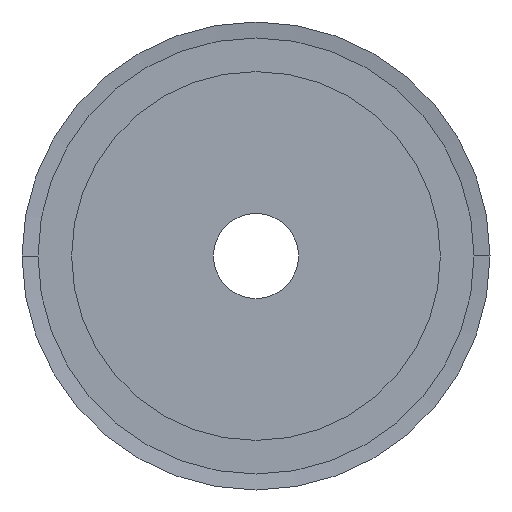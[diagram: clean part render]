
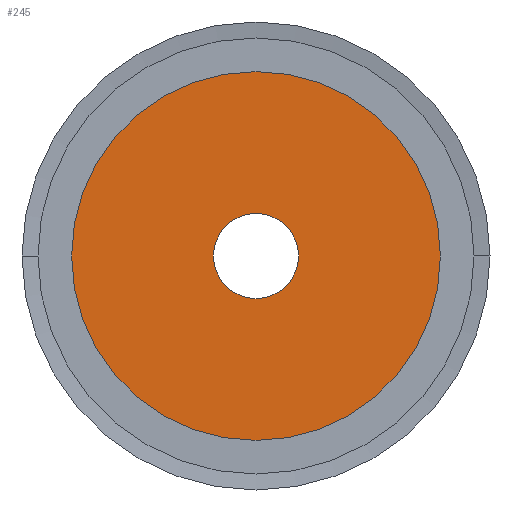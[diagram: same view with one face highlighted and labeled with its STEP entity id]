
A CAD part, left-side view. The second image highlights one B-rep face of the part: STEP entity #245.
In plain terms, the highlighted planar face has unit normal (-1, 0, 0).
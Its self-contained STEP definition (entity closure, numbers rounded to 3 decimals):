
#245 = ADVANCED_FACE( '', ( #593, #594 ), #595, .T. );
#593 = FACE_BOUND( '', #942, .T. );
#594 = FACE_OUTER_BOUND( '', #943, .T. );
#595 = PLANE( '', #944 );
#942 = EDGE_LOOP( '', ( #2419, #2420 ) );
#943 = EDGE_LOOP( '', ( #2421, #2422 ) );
#944 = AXIS2_PLACEMENT_3D( '', #2423, #2424, #2425 );
#2419 = ORIENTED_EDGE( '', *, *, #2465, .T. );
#2420 = ORIENTED_EDGE( '', *, *, #2461, .T. );
#2421 = ORIENTED_EDGE( '', *, *, #2429, .T. );
#2422 = ORIENTED_EDGE( '', *, *, #2909, .T. );
#2423 = CARTESIAN_POINT( '', ( 0., 13., 0. ) );
#2424 = DIRECTION( '', ( -1., 0., 0. ) );
#2425 = DIRECTION( '', ( 0., 1., 0. ) );
#2429 = EDGE_CURVE( '', #2911, #2915, #2917, .T. );
#2461 = EDGE_CURVE( '', #2975, #2972, #2976, .T. );
#2465 = EDGE_CURVE( '', #2972, #2975, #2981, .T. );
#2909 = EDGE_CURVE( '', #2915, #2911, #3713, .T. );
#2911 = VERTEX_POINT( '', #3715 );
#2915 = VERTEX_POINT( '', #3720 );
#2917 = CIRCLE( '', #3723, 26. );
#2972 = VERTEX_POINT( '', #3794 );
#2975 = VERTEX_POINT( '', #3798 );
#2976 = CIRCLE( '', #3799, 6. );
#2981 = CIRCLE( '', #3805, 6. );
#3713 = CIRCLE( '', #4777, 26. );
#3715 = CARTESIAN_POINT( '', ( 0., 26., 0. ) );
#3720 = CARTESIAN_POINT( '', ( 0., -26., 0. ) );
#3723 = AXIS2_PLACEMENT_3D( '', #4783, #4784, #4785 );
#3794 = CARTESIAN_POINT( '', ( 0., 6., 0. ) );
#3798 = CARTESIAN_POINT( '', ( 0., -6., 0. ) );
#3799 = AXIS2_PLACEMENT_3D( '', #4845, #4846, #4847 );
#3805 = AXIS2_PLACEMENT_3D( '', #4855, #4856, #4857 );
#4777 = AXIS2_PLACEMENT_3D( '', #5707, #5708, #5709 );
#4783 = CARTESIAN_POINT( '', ( 0., 0., 0. ) );
#4784 = DIRECTION( '', ( -1., 0., 0. ) );
#4785 = DIRECTION( '', ( 0., 1., 0. ) );
#4845 = CARTESIAN_POINT( '', ( 0., 0., 0. ) );
#4846 = DIRECTION( '', ( 1., 0., 0. ) );
#4847 = DIRECTION( '', ( 0., 1., 0. ) );
#4855 = CARTESIAN_POINT( '', ( 0., 0., 0. ) );
#4856 = DIRECTION( '', ( 1., 0., 0. ) );
#4857 = DIRECTION( '', ( 0., 1., 0. ) );
#5707 = CARTESIAN_POINT( '', ( 0., 0., 0. ) );
#5708 = DIRECTION( '', ( -1., 0., 0. ) );
#5709 = DIRECTION( '', ( 0., 1., 0. ) );
